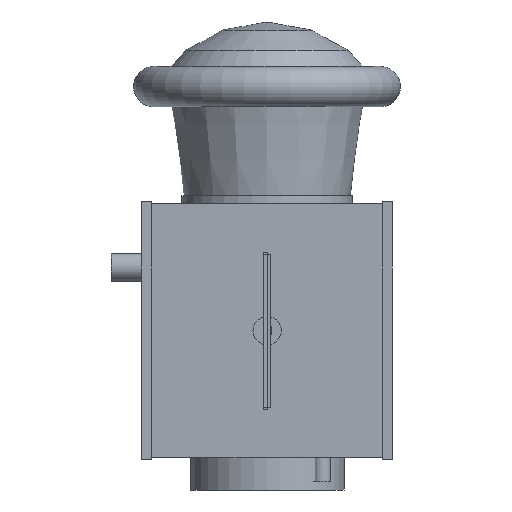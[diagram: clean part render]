
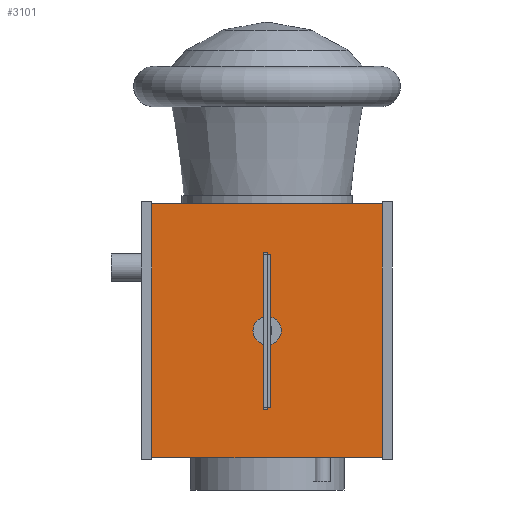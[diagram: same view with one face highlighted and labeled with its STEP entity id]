
A CAD part, left-side view. The second image highlights one B-rep face of the part: STEP entity #3101.
In plain terms, the highlighted planar face has unit normal (-1, 0, 0).
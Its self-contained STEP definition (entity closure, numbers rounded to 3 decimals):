
#3101 = ADVANCED_FACE('',(#3102),#3116,.F.);
#3102 = FACE_BOUND('',#3103,.F.);
#3103 = EDGE_LOOP('',(#3104,#3139,#3167,#3195));
#3104 = ORIENTED_EDGE('',*,*,#3105,.F.);
#3105 = EDGE_CURVE('',#3106,#3108,#3110,.T.);
#3106 = VERTEX_POINT('',#3107);
#3107 = CARTESIAN_POINT('',(-0.296,-0.296,-0.629));
#3108 = VERTEX_POINT('',#3109);
#3109 = CARTESIAN_POINT('',(-0.296,-0.296,0.));
#3110 = SURFACE_CURVE('',#3111,(#3115,#3127),.PCURVE_S1.);
#3111 = LINE('',#3112,#3113);
#3112 = CARTESIAN_POINT('',(-0.296,-0.296,-0.629));
#3113 = VECTOR('',#3114,1.);
#3114 = DIRECTION('',(0.,0.,1.));
#3115 = PCURVE('',#3116,#3121);
#3116 = PLANE('',#3117);
#3117 = AXIS2_PLACEMENT_3D('',#3118,#3119,#3120);
#3118 = CARTESIAN_POINT('',(-0.296,-0.296,-0.629));
#3119 = DIRECTION('',(1.,0.,0.));
#3120 = DIRECTION('',(0.,0.,1.));
#3121 = DEFINITIONAL_REPRESENTATION('',(#3122),#3126);
#3122 = LINE('',#3123,#3124);
#3123 = CARTESIAN_POINT('',(0.,0.));
#3124 = VECTOR('',#3125,1.);
#3125 = DIRECTION('',(1.,0.));
#3126 = ( GEOMETRIC_REPRESENTATION_CONTEXT(2) 
PARAMETRIC_REPRESENTATION_CONTEXT() REPRESENTATION_CONTEXT('2D SPACE',''
  ) );
#3127 = PCURVE('',#3128,#3133);
#3128 = PLANE('',#3129);
#3129 = AXIS2_PLACEMENT_3D('',#3130,#3131,#3132);
#3130 = CARTESIAN_POINT('',(-0.296,-0.296,-0.629));
#3131 = DIRECTION('',(0.,1.,0.));
#3132 = DIRECTION('',(0.,0.,1.));
#3133 = DEFINITIONAL_REPRESENTATION('',(#3134),#3138);
#3134 = LINE('',#3135,#3136);
#3135 = CARTESIAN_POINT('',(0.,0.));
#3136 = VECTOR('',#3137,1.);
#3137 = DIRECTION('',(1.,0.));
#3138 = ( GEOMETRIC_REPRESENTATION_CONTEXT(2) 
PARAMETRIC_REPRESENTATION_CONTEXT() REPRESENTATION_CONTEXT('2D SPACE',''
  ) );
#3139 = ORIENTED_EDGE('',*,*,#3140,.T.);
#3140 = EDGE_CURVE('',#3106,#3141,#3143,.T.);
#3141 = VERTEX_POINT('',#3142);
#3142 = CARTESIAN_POINT('',(-0.296,0.296,-0.629));
#3143 = SURFACE_CURVE('',#3144,(#3148,#3155),.PCURVE_S1.);
#3144 = LINE('',#3145,#3146);
#3145 = CARTESIAN_POINT('',(-0.296,-0.296,-0.629));
#3146 = VECTOR('',#3147,1.);
#3147 = DIRECTION('',(0.,1.,0.));
#3148 = PCURVE('',#3116,#3149);
#3149 = DEFINITIONAL_REPRESENTATION('',(#3150),#3154);
#3150 = LINE('',#3151,#3152);
#3151 = CARTESIAN_POINT('',(0.,0.));
#3152 = VECTOR('',#3153,1.);
#3153 = DIRECTION('',(0.,-1.));
#3154 = ( GEOMETRIC_REPRESENTATION_CONTEXT(2) 
PARAMETRIC_REPRESENTATION_CONTEXT() REPRESENTATION_CONTEXT('2D SPACE',''
  ) );
#3155 = PCURVE('',#3156,#3161);
#3156 = PLANE('',#3157);
#3157 = AXIS2_PLACEMENT_3D('',#3158,#3159,#3160);
#3158 = CARTESIAN_POINT('',(-0.296,-0.296,-0.629));
#3159 = DIRECTION('',(0.,0.,1.));
#3160 = DIRECTION('',(1.,0.,0.));
#3161 = DEFINITIONAL_REPRESENTATION('',(#3162),#3166);
#3162 = LINE('',#3163,#3164);
#3163 = CARTESIAN_POINT('',(0.,0.));
#3164 = VECTOR('',#3165,1.);
#3165 = DIRECTION('',(0.,1.));
#3166 = ( GEOMETRIC_REPRESENTATION_CONTEXT(2) 
PARAMETRIC_REPRESENTATION_CONTEXT() REPRESENTATION_CONTEXT('2D SPACE',''
  ) );
#3167 = ORIENTED_EDGE('',*,*,#3168,.T.);
#3168 = EDGE_CURVE('',#3141,#3169,#3171,.T.);
#3169 = VERTEX_POINT('',#3170);
#3170 = CARTESIAN_POINT('',(-0.296,0.296,0.));
#3171 = SURFACE_CURVE('',#3172,(#3176,#3183),.PCURVE_S1.);
#3172 = LINE('',#3173,#3174);
#3173 = CARTESIAN_POINT('',(-0.296,0.296,-0.629));
#3174 = VECTOR('',#3175,1.);
#3175 = DIRECTION('',(0.,0.,1.));
#3176 = PCURVE('',#3116,#3177);
#3177 = DEFINITIONAL_REPRESENTATION('',(#3178),#3182);
#3178 = LINE('',#3179,#3180);
#3179 = CARTESIAN_POINT('',(0.,-0.591));
#3180 = VECTOR('',#3181,1.);
#3181 = DIRECTION('',(1.,0.));
#3182 = ( GEOMETRIC_REPRESENTATION_CONTEXT(2) 
PARAMETRIC_REPRESENTATION_CONTEXT() REPRESENTATION_CONTEXT('2D SPACE',''
  ) );
#3183 = PCURVE('',#3184,#3189);
#3184 = PLANE('',#3185);
#3185 = AXIS2_PLACEMENT_3D('',#3186,#3187,#3188);
#3186 = CARTESIAN_POINT('',(-0.296,0.296,-0.629));
#3187 = DIRECTION('',(0.,1.,0.));
#3188 = DIRECTION('',(0.,0.,1.));
#3189 = DEFINITIONAL_REPRESENTATION('',(#3190),#3194);
#3190 = LINE('',#3191,#3192);
#3191 = CARTESIAN_POINT('',(0.,0.));
#3192 = VECTOR('',#3193,1.);
#3193 = DIRECTION('',(1.,0.));
#3194 = ( GEOMETRIC_REPRESENTATION_CONTEXT(2) 
PARAMETRIC_REPRESENTATION_CONTEXT() REPRESENTATION_CONTEXT('2D SPACE',''
  ) );
#3195 = ORIENTED_EDGE('',*,*,#3196,.F.);
#3196 = EDGE_CURVE('',#3108,#3169,#3197,.T.);
#3197 = SURFACE_CURVE('',#3198,(#3202,#3209),.PCURVE_S1.);
#3198 = LINE('',#3199,#3200);
#3199 = CARTESIAN_POINT('',(-0.296,-0.296,0.));
#3200 = VECTOR('',#3201,1.);
#3201 = DIRECTION('',(0.,1.,0.));
#3202 = PCURVE('',#3116,#3203);
#3203 = DEFINITIONAL_REPRESENTATION('',(#3204),#3208);
#3204 = LINE('',#3205,#3206);
#3205 = CARTESIAN_POINT('',(0.629,0.));
#3206 = VECTOR('',#3207,1.);
#3207 = DIRECTION('',(0.,-1.));
#3208 = ( GEOMETRIC_REPRESENTATION_CONTEXT(2) 
PARAMETRIC_REPRESENTATION_CONTEXT() REPRESENTATION_CONTEXT('2D SPACE',''
  ) );
#3209 = PCURVE('',#3210,#3215);
#3210 = PLANE('',#3211);
#3211 = AXIS2_PLACEMENT_3D('',#3212,#3213,#3214);
#3212 = CARTESIAN_POINT('',(-0.296,-0.296,0.));
#3213 = DIRECTION('',(0.,0.,1.));
#3214 = DIRECTION('',(1.,0.,0.));
#3215 = DEFINITIONAL_REPRESENTATION('',(#3216),#3220);
#3216 = LINE('',#3217,#3218);
#3217 = CARTESIAN_POINT('',(0.,0.));
#3218 = VECTOR('',#3219,1.);
#3219 = DIRECTION('',(0.,1.));
#3220 = ( GEOMETRIC_REPRESENTATION_CONTEXT(2) 
PARAMETRIC_REPRESENTATION_CONTEXT() REPRESENTATION_CONTEXT('2D SPACE',''
  ) );
